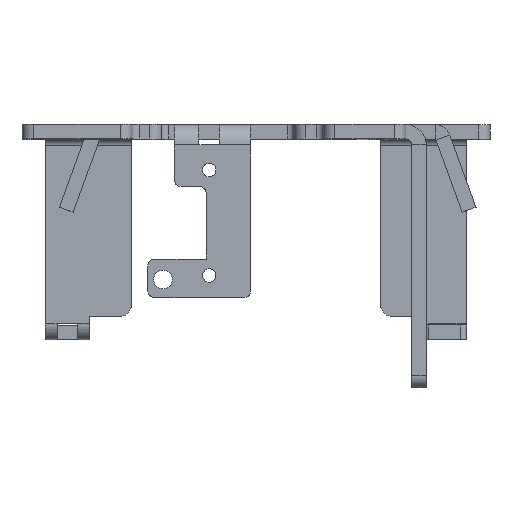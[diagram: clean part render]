
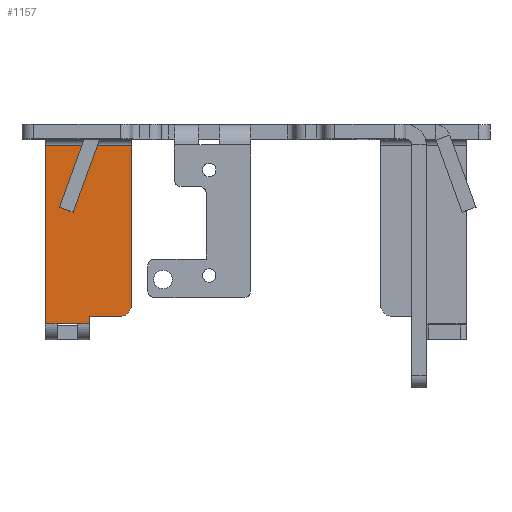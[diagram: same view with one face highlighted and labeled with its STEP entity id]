
A CAD part, top view. The second image highlights one B-rep face of the part: STEP entity #1157.
In plain terms, the highlighted planar face has unit normal (0, 0, 1).
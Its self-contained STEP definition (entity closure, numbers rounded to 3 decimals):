
#65 = AXIS2_PLACEMENT_3D ( 'NONE', #3682, #398, #4250 ) ;
#216 = ORIENTED_EDGE ( 'NONE', *, *, #4397, .F. ) ;
#256 = VERTEX_POINT ( 'NONE', #5876 ) ;
#283 = ORIENTED_EDGE ( 'NONE', *, *, #593, .T. ) ;
#312 = LINE ( 'NONE', #586, #6879 ) ;
#398 = DIRECTION ( 'NONE',  ( 0., 0., 1. ) ) ;
#473 = LINE ( 'NONE', #6417, #3393 ) ;
#538 = EDGE_CURVE ( 'NONE', #1518, #1945, #3733, .T. ) ;
#586 = CARTESIAN_POINT ( 'NONE',  ( -36., -34., -12.9 ) ) ;
#593 = EDGE_CURVE ( 'NONE', #3282, #5138, #473, .T. ) ;
#636 = CARTESIAN_POINT ( 'NONE',  ( 0., -32.75, -12.9 ) ) ;
#641 = CARTESIAN_POINT ( 'NONE',  ( -21.3, -36.7, -12.9 ) ) ;
#713 = DIRECTION ( 'NONE',  ( 1., 0., 0. ) ) ;
#763 = VERTEX_POINT ( 'NONE', #1121 ) ;
#880 = DIRECTION ( 'NONE',  ( 0., -1., 0. ) ) ;
#1035 = EDGE_CURVE ( 'NONE', #763, #256, #2010, .T. ) ;
#1121 = CARTESIAN_POINT ( 'NONE',  ( -28.5, -34., -12.9 ) ) ;
#1140 = EDGE_CURVE ( 'NONE', #5469, #1945, #1938, .T. ) ;
#1157 = ADVANCED_FACE ( 'NONE', ( #6353 ), #6457, .T. ) ;
#1381 = EDGE_CURVE ( 'NONE', #1498, #1518, #1847, .T. ) ;
#1498 = VERTEX_POINT ( 'NONE', #4145 ) ;
#1518 = VERTEX_POINT ( 'NONE', #4166 ) ;
#1529 = CARTESIAN_POINT ( 'NONE',  ( -30.5, -34., -12.9 ) ) ;
#1847 = LINE ( 'NONE', #2858, #2274 ) ;
#1938 = CIRCLE ( 'NONE', #3516, 2. ) ;
#1945 = VERTEX_POINT ( 'NONE', #6137 ) ;
#2010 = LINE ( 'NONE', #3499, #2444 ) ;
#2063 = VECTOR ( 'NONE', #2257, 1000. ) ;
#2257 = DIRECTION ( 'NONE',  ( 0., 1., 0. ) ) ;
#2274 = VECTOR ( 'NONE', #713, 1000. ) ;
#2328 = LINE ( 'NONE', #4482, #6833 ) ;
#2444 = VECTOR ( 'NONE', #5223, 1000. ) ;
#2762 = LINE ( 'NONE', #2847, #2063 ) ;
#2847 = CARTESIAN_POINT ( 'NONE',  ( -36., -2.5, -12.9 ) ) ;
#2858 = CARTESIAN_POINT ( 'NONE',  ( -36., -3.5, -12.9 ) ) ;
#3036 = ORIENTED_EDGE ( 'NONE', *, *, #1035, .T. ) ;
#3140 = DIRECTION ( 'NONE',  ( 0., 0., 1. ) ) ;
#3237 = VECTOR ( 'NONE', #3882, 1000. ) ;
#3242 = ORIENTED_EDGE ( 'NONE', *, *, #1381, .F. ) ;
#3268 = CARTESIAN_POINT ( 'NONE',  ( -23.3, -32.75, -12.9 ) ) ;
#3282 = VERTEX_POINT ( 'NONE', #3742 ) ;
#3288 = VERTEX_POINT ( 'NONE', #1529 ) ;
#3326 = DIRECTION ( 'NONE',  ( -1., 0., 0. ) ) ;
#3342 = DIRECTION ( 'NONE',  ( 1., 0., 0. ) ) ;
#3393 = VECTOR ( 'NONE', #6976, 1000. ) ;
#3499 = CARTESIAN_POINT ( 'NONE',  ( -28.5, 0., -12.9 ) ) ;
#3516 = AXIS2_PLACEMENT_3D ( 'NONE', #4172, #3140, #880 ) ;
#3634 = ORIENTED_EDGE ( 'NONE', *, *, #6939, .T. ) ;
#3682 = CARTESIAN_POINT ( 'NONE',  ( 0., 0., -12.9 ) ) ;
#3733 = LINE ( 'NONE', #641, #4346 ) ;
#3742 = CARTESIAN_POINT ( 'NONE',  ( -36., -34., -12.9 ) ) ;
#3785 = EDGE_CURVE ( 'NONE', #3282, #1498, #2762, .T. ) ;
#3882 = DIRECTION ( 'NONE',  ( 1., 0., 0. ) ) ;
#3968 = ORIENTED_EDGE ( 'NONE', *, *, #3785, .F. ) ;
#4145 = CARTESIAN_POINT ( 'NONE',  ( -36., -3.5, -12.9 ) ) ;
#4166 = CARTESIAN_POINT ( 'NONE',  ( -21.3, -3.5, -12.9 ) ) ;
#4172 = CARTESIAN_POINT ( 'NONE',  ( -23.3, -30.75, -12.9 ) ) ;
#4250 = DIRECTION ( 'NONE',  ( 0., -1., 0. ) ) ;
#4346 = VECTOR ( 'NONE', #6706, 1000. ) ;
#4397 = EDGE_CURVE ( 'NONE', #3288, #5138, #2328, .T. ) ;
#4482 = CARTESIAN_POINT ( 'NONE',  ( -34., -34., -12.9 ) ) ;
#4780 = LINE ( 'NONE', #636, #3237 ) ;
#5116 = ORIENTED_EDGE ( 'NONE', *, *, #6506, .T. ) ;
#5138 = VERTEX_POINT ( 'NONE', #5212 ) ;
#5175 = ORIENTED_EDGE ( 'NONE', *, *, #538, .F. ) ;
#5212 = CARTESIAN_POINT ( 'NONE',  ( -34., -34., -12.9 ) ) ;
#5223 = DIRECTION ( 'NONE',  ( 0., 1., 0. ) ) ;
#5469 = VERTEX_POINT ( 'NONE', #3268 ) ;
#5876 = CARTESIAN_POINT ( 'NONE',  ( -28.5, -32.75, -12.9 ) ) ;
#6137 = CARTESIAN_POINT ( 'NONE',  ( -21.3, -30.75, -12.9 ) ) ;
#6353 = FACE_OUTER_BOUND ( 'NONE', #7018, .T. ) ;
#6417 = CARTESIAN_POINT ( 'NONE',  ( -36., -34., -12.9 ) ) ;
#6457 = PLANE ( 'NONE',  #65 ) ;
#6506 = EDGE_CURVE ( 'NONE', #256, #5469, #4780, .T. ) ;
#6706 = DIRECTION ( 'NONE',  ( 0., -1., 0. ) ) ;
#6833 = VECTOR ( 'NONE', #3326, 1000. ) ;
#6879 = VECTOR ( 'NONE', #3342, 1000. ) ;
#6939 = EDGE_CURVE ( 'NONE', #3288, #763, #312, .T. ) ;
#6976 = DIRECTION ( 'NONE',  ( 1., 0., 0. ) ) ;
#6984 = ORIENTED_EDGE ( 'NONE', *, *, #1140, .T. ) ;
#7018 = EDGE_LOOP ( 'NONE', ( #5116, #6984, #5175, #3242, #3968, #283, #216, #3634, #3036 ) ) ;
